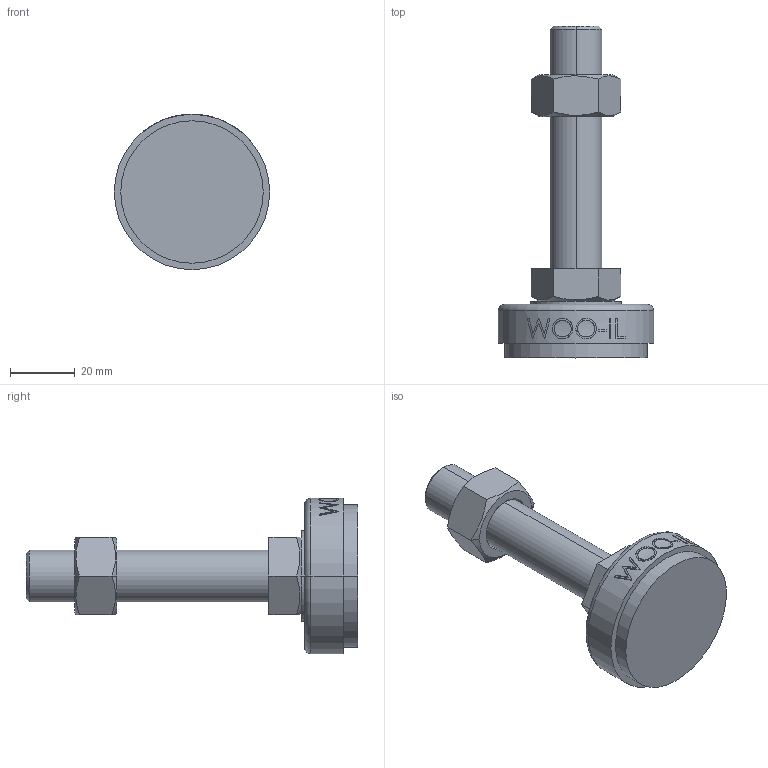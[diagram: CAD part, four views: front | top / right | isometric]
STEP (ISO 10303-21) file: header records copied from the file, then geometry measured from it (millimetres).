
FILE_DESCRIPTION (( 'STEP AP214' ), '1' );
FILE_NAME ('NS48-M16-75.step', '2021-01-11T05:44:37', ( '' ), ( '' ), 'SwSTEP 2.0', 'SolidWorks 2019', '' );
FILE_SCHEMA (( 'AUTOMOTIVE_DESIGN' ));
Length unit declared in the file: millimetre
Products named in the file (2): NS48-M16-75
Bounding box: 48 x 102.5 x 48 mm (x, y, z)
Volume: 52816.1 mm3; surface area: 13765.9 mm2
Topology: 3 solids, 3 shells, 96 faces, 223 edges, 144 vertices
Faces by surface type: plane 48, cylinder 18, bspline 16, cone 12, torus 2
Entity records: 4250 total; most frequent: CARTESIAN_POINT 2125, ORIENTED_EDGE 446, DIRECTION 381, EDGE_CURVE 223, VERTEX_POINT 144, AXIS2_PLACEMENT_3D 142, EDGE_LOOP 109, VECTOR 97
